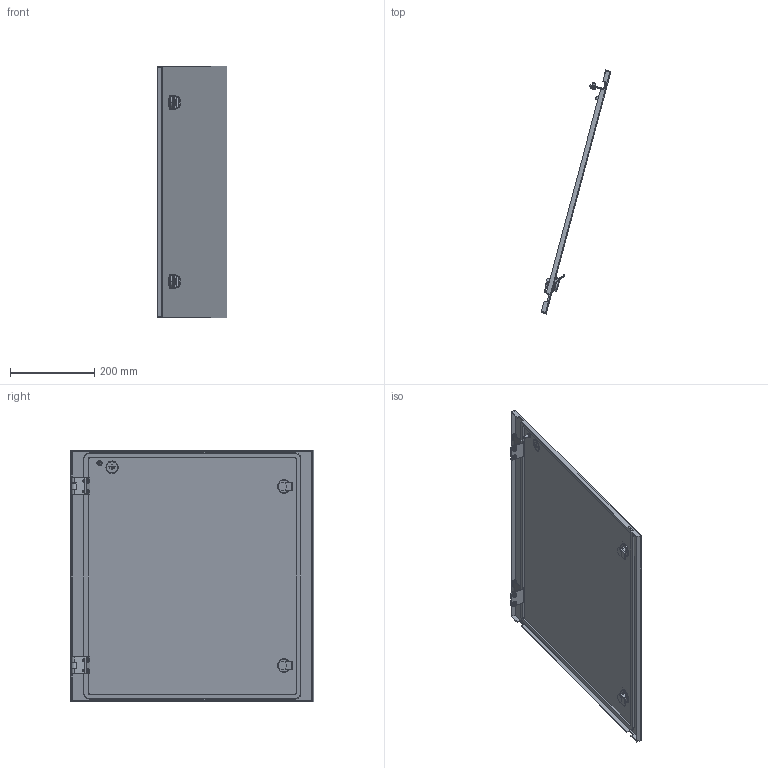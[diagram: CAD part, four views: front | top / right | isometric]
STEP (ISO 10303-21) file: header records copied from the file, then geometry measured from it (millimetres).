
FILE_DESCRIPTION (( 'STEP AP214' ), '1' );
FILE_NAME ('FO-00-ESD-060-060 Äâåðü ñåêöèîííàÿ âíåøíÿÿ 600õ600 ìì.STEP', '2025-08-20T06:23:56', ( '' ), ( '' ), 'SwSTEP 2.0', 'SolidWorks 2023', '' );
FILE_SCHEMA (( 'AUTOMOTIVE_DESIGN' ));
Length unit declared in the file: millimetre
Products named in the file (4): FO-00-ESD-060-060 Дверь секционная внешняя 600х600 мм; Дверь секционная внешняя 600х600 мм.STEP; Петля.STEP; FO-00-ESD-060-060 Дверь секционная внешняя 600х600 мм.STEP
Assembly tree (4 placements, depth 3):
  FO-00-ESD-060-060 Дверь секционная внешняя 600х600 мм
    FO-00-ESD-060-060 Дверь секционная внешняя 600х600 мм.STEP
      Дверь секционная внешняя 600х600 мм.STEP
      Петля.STEP  x2
Bounding box: 165.93 x 578 x 596 mm (x, y, z)
Volume: 888731.5 mm3; surface area: 802737.4 mm2
Topology: 3 solids, 12 shells, 707 faces, 1809 edges, 1168 vertices
Faces by surface type: plane 343, cylinder 268, torus 34, cone 32, bspline 30
Entity records: 20694 total; most frequent: CARTESIAN_POINT 5778, ORIENTED_EDGE 3108, DIRECTION 3078, EDGE_CURVE 1554, AXIS2_PLACEMENT_3D 1056, VERTEX_POINT 1006, LINE 966, VECTOR 966
